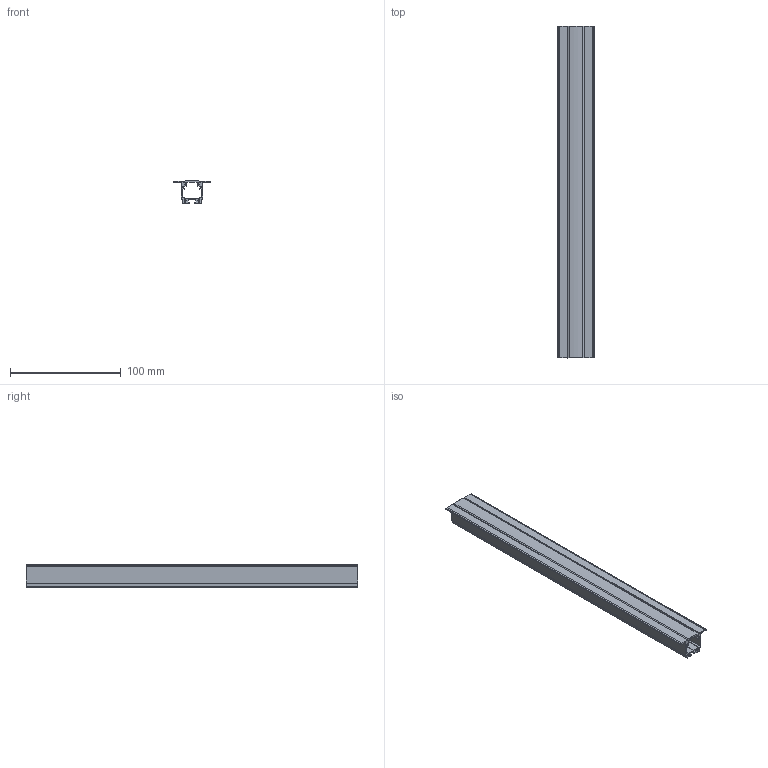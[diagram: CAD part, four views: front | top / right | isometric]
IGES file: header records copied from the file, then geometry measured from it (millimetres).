
Start section: SolidWorks IGES file using analytic representation for surfaces
Global section: file name: L:\Tecnico_PMT\R&D\NEMOstudio\SLACKLINE\SLACKLINE TRIM (RIM)\3D Sito\Slackline Trim.IGS; native system: SolidWorks 2016; preprocessor: SolidWorks 2016; author: FabioFornasa; date: 220408.091110; units: millimetre
Bounding box: 32.6 x 300 x 20.69 mm (x, y, z)
Surface area: 66168.9 mm2 (no closed solid volume)
Topology: 0 solids, 0 shells, 119 faces, 1016 edges, 1016 vertices
Faces by surface type: bspline 77, revolution 42
